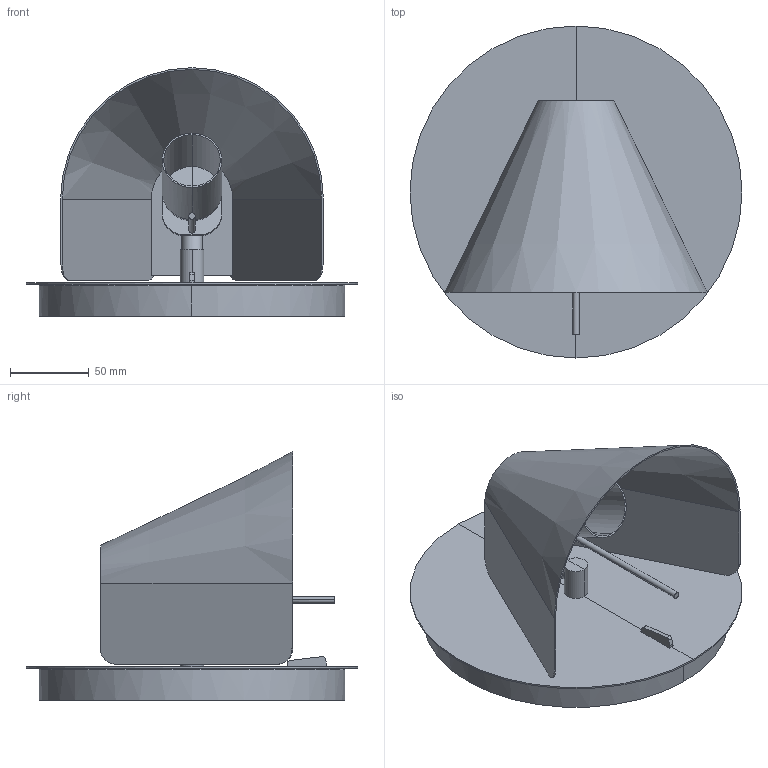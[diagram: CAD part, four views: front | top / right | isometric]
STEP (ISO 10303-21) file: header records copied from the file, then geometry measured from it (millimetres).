
FILE_DESCRIPTION(/* description */ (''),/* implementation_level */ '2;1');
FILE_NAME(/* name */ 'C:\Users\FrancoSartori\Documents\FARO\01_En Proceso\000_NOON\03_Publicación\62355.stp',/* time_stamp */ '2021-07-28T07:53:37+02:00',/* author */ ('FrancoSartori'),/* organization */ (''),/* preprocessor_version */ 'ST-DEVELOPER v18.1',/* originating_system */ 'AutoCAD Mechanical',/* authorisation */ '');
FILE_SCHEMA (('AUTOMOTIVE_DESIGN { 1 0 10303 214 3 1 1 }'));
Length unit declared in the file: millimetre
Products named in the file (2): Product; 62355_NOON - NOON-459826-Export
Assembly tree (1 placements, depth 2):
  Product
    62355_NOON - NOON-459826-Export
Bounding box: 211 x 211 x 158.02 mm (x, y, z)
Volume: 277593.4 mm3; surface area: 206283.4 mm2
Topology: 5 solids, 7 shells, 128 faces, 315 edges, 196 vertices
Faces by surface type: plane 69, cylinder 49, torus 6, cone 2, bspline 2
Entity records: 4222 total; most frequent: CARTESIAN_POINT 1137, DIRECTION 635, ORIENTED_EDGE 608, EDGE_CURVE 315, AXIS2_PLACEMENT_3D 221, VERTEX_POINT 196, LINE 193, VECTOR 193
